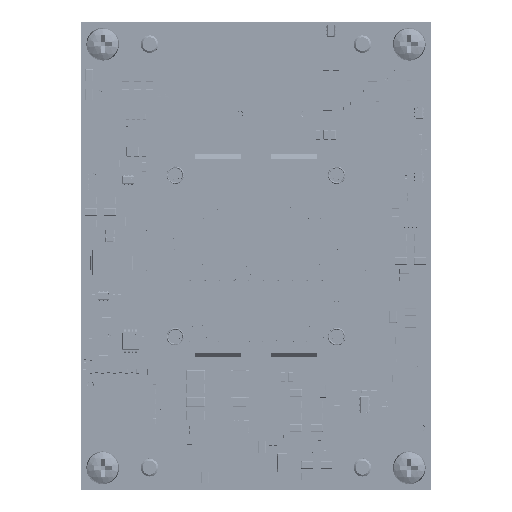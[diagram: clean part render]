
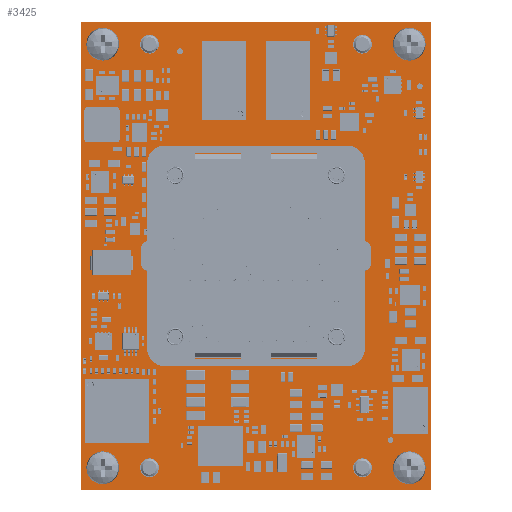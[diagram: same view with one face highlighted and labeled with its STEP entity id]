
A CAD part, top view. The second image highlights one B-rep face of the part: STEP entity #3425.
In plain terms, the highlighted planar face has unit normal (0, 0, 1).
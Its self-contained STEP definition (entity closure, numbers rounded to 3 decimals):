
#3008 = VERTEX_POINT('',#3009);
#3009 = CARTESIAN_POINT('',(0.,0.,1.714));
#3015 = EDGE_CURVE('',#3008,#3016,#3018,.T.);
#3016 = VERTEX_POINT('',#3017);
#3017 = CARTESIAN_POINT('',(60.,0.,1.714));
#3018 = LINE('',#3019,#3020);
#3019 = CARTESIAN_POINT('',(0.,0.,1.714));
#3020 = VECTOR('',#3021,1.);
#3021 = DIRECTION('',(1.,0.,0.));
#3046 = EDGE_CURVE('',#3016,#3047,#3049,.T.);
#3047 = VERTEX_POINT('',#3048);
#3048 = CARTESIAN_POINT('',(60.,80.,1.714));
#3049 = LINE('',#3050,#3051);
#3050 = CARTESIAN_POINT('',(60.,0.,1.714));
#3051 = VECTOR('',#3052,1.);
#3052 = DIRECTION('',(0.,1.,0.));
#3077 = EDGE_CURVE('',#3047,#3078,#3080,.T.);
#3078 = VERTEX_POINT('',#3079);
#3079 = CARTESIAN_POINT('',(0.,80.,1.714));
#3080 = LINE('',#3081,#3082);
#3081 = CARTESIAN_POINT('',(60.,80.,1.714));
#3082 = VECTOR('',#3083,1.);
#3083 = DIRECTION('',(-1.,0.,0.));
#3108 = EDGE_CURVE('',#3078,#3008,#3109,.T.);
#3109 = LINE('',#3110,#3111);
#3110 = CARTESIAN_POINT('',(0.,80.,1.714));
#3111 = VECTOR('',#3112,1.);
#3112 = DIRECTION('',(0.,-1.,0.));
#3132 = VERTEX_POINT('',#3133);
#3133 = CARTESIAN_POINT('',(5.4,3.8,1.714));
#3139 = EDGE_CURVE('',#3132,#3132,#3140,.T.);
#3140 = CIRCLE('',#3141,1.6);
#3141 = AXIS2_PLACEMENT_3D('',#3142,#3143,#3144);
#3142 = CARTESIAN_POINT('',(3.8,3.8,1.714));
#3143 = DIRECTION('',(0.,0.,1.));
#3144 = DIRECTION('',(1.,0.,-0.));
#3165 = VERTEX_POINT('',#3166);
#3166 = CARTESIAN_POINT('',(13.4,3.8,1.714));
#3172 = EDGE_CURVE('',#3165,#3165,#3173,.T.);
#3173 = CIRCLE('',#3174,1.6);
#3174 = AXIS2_PLACEMENT_3D('',#3175,#3176,#3177);
#3175 = CARTESIAN_POINT('',(11.8,3.8,1.714));
#3176 = DIRECTION('',(0.,0.,1.));
#3177 = DIRECTION('',(1.,0.,-0.));
#3198 = VERTEX_POINT('',#3199);
#3199 = CARTESIAN_POINT('',(5.4,76.2,1.714));
#3205 = EDGE_CURVE('',#3198,#3198,#3206,.T.);
#3206 = CIRCLE('',#3207,1.6);
#3207 = AXIS2_PLACEMENT_3D('',#3208,#3209,#3210);
#3208 = CARTESIAN_POINT('',(3.8,76.2,1.714));
#3209 = DIRECTION('',(0.,0.,1.));
#3210 = DIRECTION('',(1.,0.,-0.));
#3231 = VERTEX_POINT('',#3232);
#3232 = CARTESIAN_POINT('',(13.4,76.2,1.714));
#3238 = EDGE_CURVE('',#3231,#3231,#3239,.T.);
#3239 = CIRCLE('',#3240,1.6);
#3240 = AXIS2_PLACEMENT_3D('',#3241,#3242,#3243);
#3241 = CARTESIAN_POINT('',(11.8,76.2,1.714));
#3242 = DIRECTION('',(0.,0.,1.));
#3243 = DIRECTION('',(1.,0.,-0.));
#3264 = VERTEX_POINT('',#3265);
#3265 = CARTESIAN_POINT('',(49.8,3.8,1.714));
#3271 = EDGE_CURVE('',#3264,#3264,#3272,.T.);
#3272 = CIRCLE('',#3273,1.6);
#3273 = AXIS2_PLACEMENT_3D('',#3274,#3275,#3276);
#3274 = CARTESIAN_POINT('',(48.2,3.8,1.714));
#3275 = DIRECTION('',(0.,0.,1.));
#3276 = DIRECTION('',(1.,0.,-0.));
#3297 = VERTEX_POINT('',#3298);
#3298 = CARTESIAN_POINT('',(57.8,3.8,1.714));
#3304 = EDGE_CURVE('',#3297,#3297,#3305,.T.);
#3305 = CIRCLE('',#3306,1.6);
#3306 = AXIS2_PLACEMENT_3D('',#3307,#3308,#3309);
#3307 = CARTESIAN_POINT('',(56.2,3.8,1.714));
#3308 = DIRECTION('',(0.,0.,1.));
#3309 = DIRECTION('',(1.,0.,-0.));
#3330 = VERTEX_POINT('',#3331);
#3331 = CARTESIAN_POINT('',(49.8,76.2,1.714));
#3337 = EDGE_CURVE('',#3330,#3330,#3338,.T.);
#3338 = CIRCLE('',#3339,1.6);
#3339 = AXIS2_PLACEMENT_3D('',#3340,#3341,#3342);
#3340 = CARTESIAN_POINT('',(48.2,76.2,1.714));
#3341 = DIRECTION('',(0.,0.,1.));
#3342 = DIRECTION('',(1.,0.,-0.));
#3363 = VERTEX_POINT('',#3364);
#3364 = CARTESIAN_POINT('',(57.8,76.2,1.714));
#3370 = EDGE_CURVE('',#3363,#3363,#3371,.T.);
#3371 = CIRCLE('',#3372,1.6);
#3372 = AXIS2_PLACEMENT_3D('',#3373,#3374,#3375);
#3373 = CARTESIAN_POINT('',(56.2,76.2,1.714));
#3374 = DIRECTION('',(0.,0.,1.));
#3375 = DIRECTION('',(1.,0.,-0.));
#3425 = ADVANCED_FACE('',(#3426,#3432,#3435,#3438,#3441,#3444,#3447,
    #3450,#3453),#3456,.T.);
#3426 = FACE_BOUND('',#3427,.T.);
#3427 = EDGE_LOOP('',(#3428,#3429,#3430,#3431));
#3428 = ORIENTED_EDGE('',*,*,#3015,.T.);
#3429 = ORIENTED_EDGE('',*,*,#3046,.T.);
#3430 = ORIENTED_EDGE('',*,*,#3077,.T.);
#3431 = ORIENTED_EDGE('',*,*,#3108,.T.);
#3432 = FACE_BOUND('',#3433,.T.);
#3433 = EDGE_LOOP('',(#3434));
#3434 = ORIENTED_EDGE('',*,*,#3139,.F.);
#3435 = FACE_BOUND('',#3436,.T.);
#3436 = EDGE_LOOP('',(#3437));
#3437 = ORIENTED_EDGE('',*,*,#3172,.F.);
#3438 = FACE_BOUND('',#3439,.T.);
#3439 = EDGE_LOOP('',(#3440));
#3440 = ORIENTED_EDGE('',*,*,#3205,.F.);
#3441 = FACE_BOUND('',#3442,.T.);
#3442 = EDGE_LOOP('',(#3443));
#3443 = ORIENTED_EDGE('',*,*,#3238,.F.);
#3444 = FACE_BOUND('',#3445,.T.);
#3445 = EDGE_LOOP('',(#3446));
#3446 = ORIENTED_EDGE('',*,*,#3271,.F.);
#3447 = FACE_BOUND('',#3448,.T.);
#3448 = EDGE_LOOP('',(#3449));
#3449 = ORIENTED_EDGE('',*,*,#3304,.F.);
#3450 = FACE_BOUND('',#3451,.T.);
#3451 = EDGE_LOOP('',(#3452));
#3452 = ORIENTED_EDGE('',*,*,#3337,.F.);
#3453 = FACE_BOUND('',#3454,.T.);
#3454 = EDGE_LOOP('',(#3455));
#3455 = ORIENTED_EDGE('',*,*,#3370,.F.);
#3456 = PLANE('',#3457);
#3457 = AXIS2_PLACEMENT_3D('',#3458,#3459,#3460);
#3458 = CARTESIAN_POINT('',(30.,40.,1.714));
#3459 = DIRECTION('',(0.,0.,1.));
#3460 = DIRECTION('',(1.,0.,-0.));
